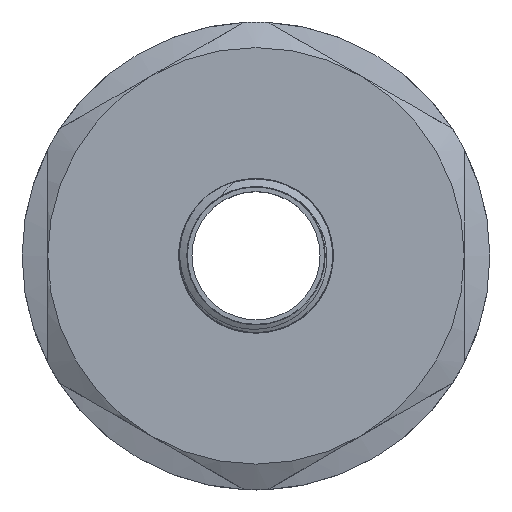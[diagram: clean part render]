
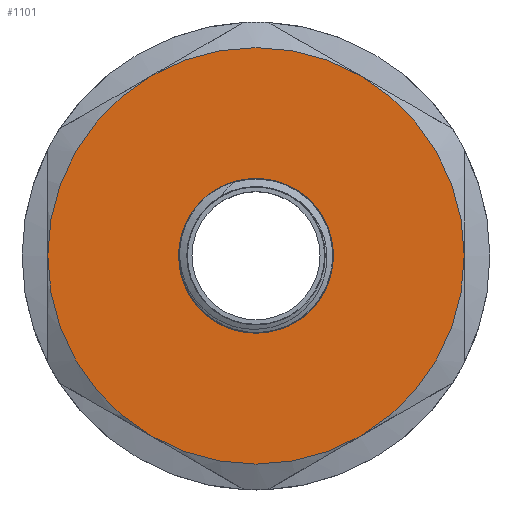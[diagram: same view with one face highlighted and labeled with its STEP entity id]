
A CAD part, top view. The second image highlights one B-rep face of the part: STEP entity #1101.
In plain terms, the highlighted planar face has unit normal (0, 0, 1).
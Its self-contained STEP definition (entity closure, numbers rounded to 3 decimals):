
#101=FACE_BOUND('',#294,.T.);
#203=PLANE('',#1209);
#230=FACE_OUTER_BOUND('',#293,.T.);
#293=EDGE_LOOP('',(#800,#801,#802,#803,#804,#805));
#294=EDGE_LOOP('',(#806,#807));
#346=CIRCLE('',#1169,32.5);
#348=CIRCLE('',#1172,32.5);
#350=CIRCLE('',#1175,32.5);
#351=CIRCLE('',#1177,32.5);
#353=CIRCLE('',#1180,32.5);
#355=CIRCLE('',#1183,32.5);
#358=CIRCLE('',#1191,10.71);
#361=CIRCLE('',#1194,10.71);
#419=VERTEX_POINT('',#1505);
#421=VERTEX_POINT('',#1511);
#423=VERTEX_POINT('',#1518);
#426=VERTEX_POINT('',#1530);
#429=VERTEX_POINT('',#1545);
#432=VERTEX_POINT('',#1557);
#449=VERTEX_POINT('',#1626);
#450=VERTEX_POINT('',#1627);
#542=EDGE_CURVE('',#419,#421,#346,.T.);
#546=EDGE_CURVE('',#423,#419,#348,.T.);
#550=EDGE_CURVE('',#426,#423,#350,.T.);
#552=EDGE_CURVE('',#429,#426,#351,.T.);
#556=EDGE_CURVE('',#432,#429,#353,.T.);
#560=EDGE_CURVE('',#421,#432,#355,.T.);
#580=EDGE_CURVE('',#449,#450,#358,.T.);
#584=EDGE_CURVE('',#450,#449,#361,.T.);
#800=ORIENTED_EDGE('',*,*,#560,.T.);
#801=ORIENTED_EDGE('',*,*,#556,.T.);
#802=ORIENTED_EDGE('',*,*,#552,.T.);
#803=ORIENTED_EDGE('',*,*,#550,.T.);
#804=ORIENTED_EDGE('',*,*,#546,.T.);
#805=ORIENTED_EDGE('',*,*,#542,.T.);
#806=ORIENTED_EDGE('',*,*,#580,.F.);
#807=ORIENTED_EDGE('',*,*,#584,.F.);
#1101=ADVANCED_FACE('',(#230,#101),#203,.T.);
#1169=AXIS2_PLACEMENT_3D('',#1515,#1273,#1274);
#1172=AXIS2_PLACEMENT_3D('',#1527,#1279,#1280);
#1175=AXIS2_PLACEMENT_3D('',#1539,#1285,#1286);
#1177=AXIS2_PLACEMENT_3D('',#1546,#1289,#1290);
#1180=AXIS2_PLACEMENT_3D('',#1558,#1295,#1296);
#1183=AXIS2_PLACEMENT_3D('',#1569,#1301,#1302);
#1191=AXIS2_PLACEMENT_3D('',#1628,#1325,#1326);
#1194=AXIS2_PLACEMENT_3D('',#1634,#1332,#1333);
#1209=AXIS2_PLACEMENT_3D('',#1671,#1366,#1367);
#1273=DIRECTION('center_axis',(0.,0.,1.));
#1274=DIRECTION('ref_axis',(0.,1.,0.));
#1279=DIRECTION('center_axis',(0.,0.,1.));
#1280=DIRECTION('ref_axis',(0.,1.,0.));
#1285=DIRECTION('center_axis',(0.,0.,1.));
#1286=DIRECTION('ref_axis',(0.,1.,0.));
#1289=DIRECTION('center_axis',(0.,0.,1.));
#1290=DIRECTION('ref_axis',(0.,1.,0.));
#1295=DIRECTION('center_axis',(0.,0.,1.));
#1296=DIRECTION('ref_axis',(0.,1.,0.));
#1301=DIRECTION('center_axis',(0.,0.,1.));
#1302=DIRECTION('ref_axis',(0.,1.,0.));
#1325=DIRECTION('center_axis',(0.,0.,1.));
#1326=DIRECTION('ref_axis',(1.,0.,0.));
#1332=DIRECTION('center_axis',(0.,0.,1.));
#1333=DIRECTION('ref_axis',(1.,0.,0.));
#1366=DIRECTION('center_axis',(0.,0.,1.));
#1367=DIRECTION('ref_axis',(1.,0.,0.));
#1505=CARTESIAN_POINT('',(32.5,0.,21.));
#1511=CARTESIAN_POINT('',(16.25,28.146,21.));
#1515=CARTESIAN_POINT('Origin',(0.,0.,21.));
#1518=CARTESIAN_POINT('',(16.25,-28.146,21.));
#1527=CARTESIAN_POINT('Origin',(0.,0.,21.));
#1530=CARTESIAN_POINT('',(-16.25,-28.146,21.));
#1539=CARTESIAN_POINT('Origin',(0.,0.,21.));
#1545=CARTESIAN_POINT('',(-32.5,0.,21.));
#1546=CARTESIAN_POINT('Origin',(0.,0.,21.));
#1557=CARTESIAN_POINT('',(-16.25,28.146,21.));
#1558=CARTESIAN_POINT('Origin',(0.,0.,21.));
#1569=CARTESIAN_POINT('Origin',(0.,0.,21.));
#1626=CARTESIAN_POINT('',(0.,10.71,21.));
#1627=CARTESIAN_POINT('',(0.,-10.71,21.));
#1628=CARTESIAN_POINT('Origin',(0.,0.,21.));
#1634=CARTESIAN_POINT('Origin',(0.,0.,21.));
#1671=CARTESIAN_POINT('Origin',(0.,-12.055,21.));
